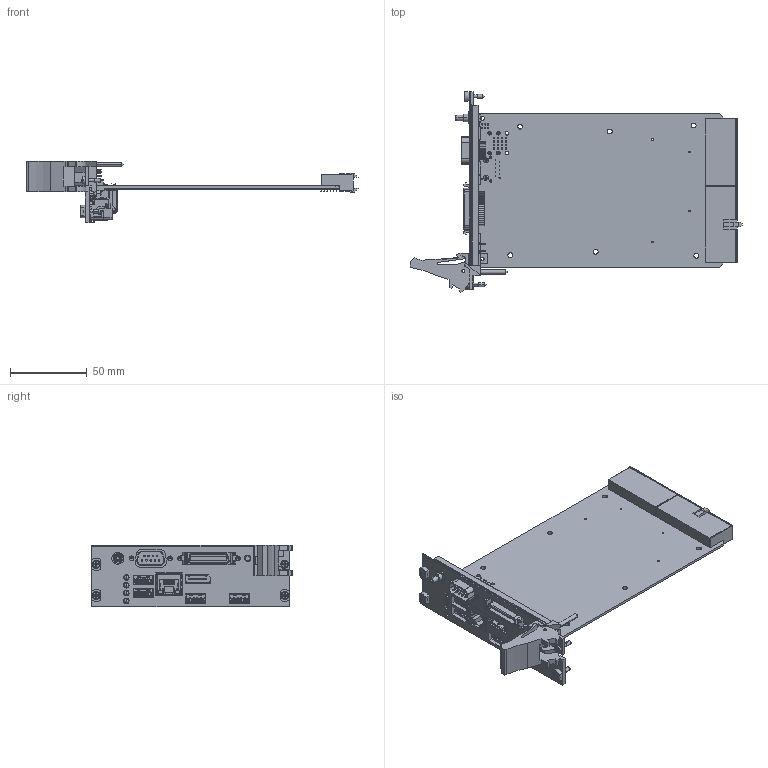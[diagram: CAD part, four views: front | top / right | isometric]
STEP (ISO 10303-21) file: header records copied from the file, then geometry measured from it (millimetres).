
FILE_DESCRIPTION((''),'2;1');
FILE_NAME('PRT0001','2016-03-21T',('kleong'),(''),'PRO/ENGINEER BY PARAMETRIC TECHNOLOGY CORPORATION, 2014000','PRO/ENGINEER BY PARAMETRIC TECHNOLOGY CORPORATION, 2014000','');
FILE_SCHEMA(('CONFIG_CONTROL_DESIGN'));
Products named in the file (1): PRT0001
Bounding box: 216.09 x 130.52 x 40.34 mm (x, y, z)
Volume: 86495.6 mm3; surface area: 76992.2 mm2
Topology: 7 solids, 7 shells, 4910 faces, 14184 edges, 9307 vertices
Faces by surface type: plane 3577, cylinder 1211, bspline 74, cone 20, sphere 16, torus 12
Entity records: 164974 total; most frequent: CARTESIAN_POINT 34580, ORIENTED_EDGE 28336, DIRECTION 25441, EDGE_CURVE 14168, VECTOR 11063, LINE 11063, VERTEX_POINT 9307, AXIS2_PLACEMENT_3D 7189
